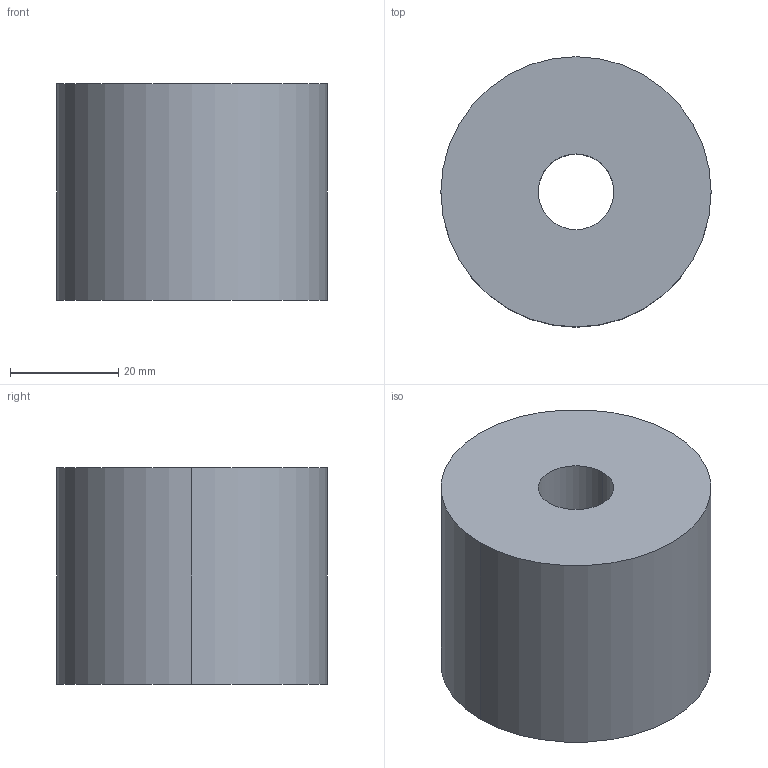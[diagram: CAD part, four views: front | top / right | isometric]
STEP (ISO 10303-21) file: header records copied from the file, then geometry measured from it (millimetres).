
FILE_DESCRIPTION(/* description */ (''),/* implementation_level */ '2;1');
FILE_NAME(/* name */ '3d_pa50-40_04912_r00.stp',/* time_stamp */ '2011-01-10T14:11:58+09:00',/* author */ ('MISUMI'),/* organization */ (''),/* preprocessor_version */ 'ST-DEVELOPER v11',/* originating_system */ 'UGS - NX 5.0',/* authorisation */ '');
FILE_SCHEMA (('CONFIG_CONTROL_DESIGN'));
Length unit declared in the file: millimetre
Products named in the file (1): 3d_pa50-40_04912_r00
Bounding box: 50 x 50 x 40 mm (x, y, z)
Volume: 72382.3 mm3; surface area: 11661.6 mm2
Topology: 1 solids, 1 shells, 6 faces, 12 edges, 8 vertices
Faces by surface type: cylinder 4, plane 2
Entity records: 254 total; most frequent: DIRECTION 34, CARTESIAN_POINT 27, ORIENTED_EDGE 24, AXIS2_PLACEMENT_3D 15, EDGE_CURVE 12, EDGE_LOOP 8, VERTEX_POINT 8, CIRCLE 8
